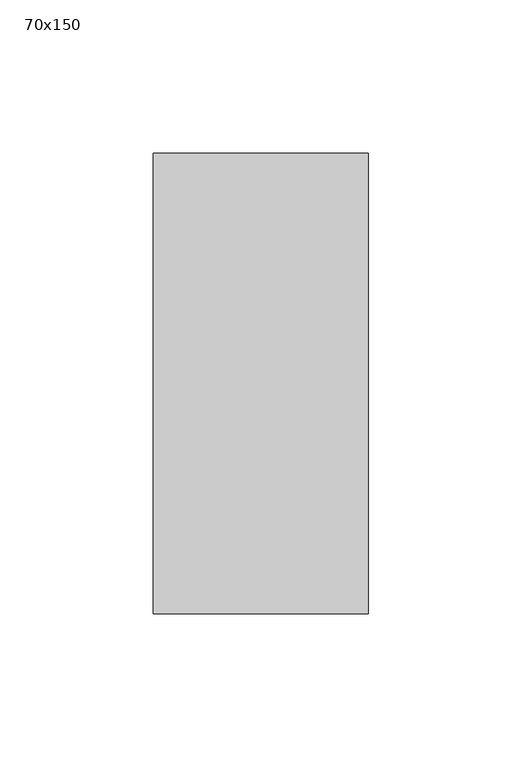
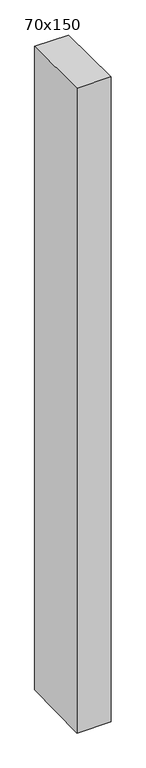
"""IFC4 building model written with IfcOpenShell, lengths in millimetres: member geometry, 長方形のマリオン : 70x150."""

import ifcopenshell
import ifcopenshell.guid

model = None  # the IFC model being written
_history = None  # IfcOwnerHistory: only IFC2X3 demands one
_inside = {}  # id of a spatial element -> (the spatial element, [elements in it])
_under = {}  # id of a project, library or spatial element -> (it, [spatial elements below it])
_declared = {}  # id of a project -> (the project, [libraries it declares])
_typed = {}  # id of a type object -> (the type object, [elements of that type])
_made_of = {}  # id of a material, layer set ... -> (it, [elements and type objects made of it])


def new_model(schema):
    """Start an empty IFC model of exactly this schema.

    Asked for "IFC4X3", IfcOpenShell would pick the latest addendum, in which some entities
    have other attributes; the version numbers below select the first issue.
    IFC2X3 requires an IfcOwnerHistory on every rooted entity: one is made here for all.
    """
    global model, _history
    if schema == "IFC4X3":
        model = ifcopenshell.file(schema_version=(4, 3, 0, 0))
    else:
        model = ifcopenshell.file(schema=schema)
    _inside.clear()
    _under.clear()
    _declared.clear()
    _typed.clear()
    _made_of.clear()
    _history = None
    if model.schema == "IFC2X3":
        org = make("IfcOrganization", Name="unknown")
        user = make(
            "IfcPersonAndOrganization",
            ThePerson=make("IfcPerson", FamilyName="unknown"),
            TheOrganization=org,
        )
        app = make(
            "IfcApplication",
            ApplicationDeveloper=org,
            Version="unknown",
            ApplicationFullName="unknown",
            ApplicationIdentifier="unknown",
        )
        _history = make(
            "IfcOwnerHistory",
            OwningUser=user,
            OwningApplication=app,
            ChangeAction="ADDED",
            CreationDate=0,
        )
    return model


def make(cls, **values):
    """One entity of the class cls with the attributes given. An attribute that is None is left unset."""
    return model.create_entity(
        cls, **{name: value for name, value in values.items() if value is not None}
    )


def rooted(cls, **values):
    """An entity with a GlobalId (a new one), such as an element, a storey or a relation."""
    return make(cls, GlobalId=ifcopenshell.guid.new(), OwnerHistory=_history, **values)


def si_unit(unit_type, name, prefix=None):
    """IfcSIUnit, for example si_unit("LENGTHUNIT", "METRE", prefix="MILLI")."""
    return make("IfcSIUnit", UnitType=unit_type, Prefix=prefix, Name=name)


def assignment(units):
    """IfcUnitAssignment: the units of a project."""
    return None if units is None else make("IfcUnitAssignment", Units=units)


def point(xyz):
    """IfcCartesianPoint."""
    return None if xyz is None else make("IfcCartesianPoint", Coordinates=xyz)


def direction(xyz):
    """IfcDirection."""
    return None if xyz is None else make("IfcDirection", DirectionRatios=xyz)


def frame(location, z_axis=None, x_axis=None):
    """IfcAxis2Placement3D, a coordinate frame: its origin and axes. An axis left out is left unset."""
    return make(
        "IfcAxis2Placement3D",
        Location=point(location),
        Axis=direction(z_axis),
        RefDirection=direction(x_axis),
    )


def origin():
    """The frame at (0, 0, 0) with its axes left unset."""
    return frame((0.0, 0.0, 0.0))


def place(relative_to, where):
    """IfcLocalPlacement: puts the frame where relative to a parent placement (None: the world)."""
    return make(
        "IfcLocalPlacement", PlacementRelTo=relative_to, RelativePlacement=where
    )


def context(
    kind, dimensions, precision=None, world=None, true_north=None, identifier=None
):
    """IfcGeometricRepresentationContext, for example the 3D "Model" context."""
    return make(
        "IfcGeometricRepresentationContext",
        ContextIdentifier=identifier,
        ContextType=kind,
        CoordinateSpaceDimension=dimensions,
        Precision=precision,
        WorldCoordinateSystem=world,
        TrueNorth=true_north,
    )


def project(units=None, contexts=None):
    """IfcProject with its units and contexts."""
    return rooted(
        "IfcProject",
        Name="project",
        RepresentationContexts=contexts,
        UnitsInContext=assignment(units),
    )


def spatial(cls, under=None, at=None, **own):
    """A site, building, storey or space (cls), placed at a placement, below another one or the project."""
    s = rooted(cls, ObjectPlacement=at, **own)
    if under is not None:
        _under.setdefault(under.id(), (under, []))[1].append(s)
    return s


def polyline(points):
    """IfcPolyline through the points."""
    return make("IfcPolyline", Points=[point(p) for p in points])


def outline(outer, holes=None, kind="AREA"):
    """IfcArbitraryClosedProfileDef: a profile drawn as a closed curve; with holes, ...WithVoids."""
    if holes is None:
        return make("IfcArbitraryClosedProfileDef", ProfileType=kind, OuterCurve=outer)
    return make(
        "IfcArbitraryProfileDefWithVoids",
        ProfileType=kind,
        OuterCurve=outer,
        InnerCurves=holes,
    )


def extrude(swept, where, along, depth):
    """IfcExtrudedAreaSolid: the profile swept, set in the frame where, extruded along a direction by depth."""
    return make(
        "IfcExtrudedAreaSolid",
        SweptArea=swept,
        Position=where,
        ExtrudedDirection=direction(along),
        Depth=depth,
    )


def shape(context_of_items, identifier, shape_type, items):
    """IfcShapeRepresentation: the items that make up one representation, for example the "Body"."""
    return make(
        "IfcShapeRepresentation",
        ContextOfItems=context_of_items,
        RepresentationIdentifier=identifier,
        RepresentationType=shape_type,
        Items=items,
    )


def source(mapping_origin, context_of_items, identifier, shape_type, items):
    """IfcRepresentationMap: a shape defined once, which mapped items show again and again."""
    return make(
        "IfcRepresentationMap",
        MappingOrigin=mapping_origin,
        MappedRepresentation=shape(context_of_items, identifier, shape_type, items),
    )


def transform(
    local_origin,
    x_axis=None,
    y_axis=None,
    z_axis=None,
    scale=None,
    scale2=None,
    scale3=None,
    uniform=True,
):
    """IfcCartesianTransformationOperator3D, or its non-uniform kind. x_axis, y_axis, z_axis: its Axis1, 2, 3."""
    if uniform:
        return make(
            "IfcCartesianTransformationOperator3D",
            Axis1=direction(x_axis),
            Axis2=direction(y_axis),
            LocalOrigin=point(local_origin),
            Scale=scale,
            Axis3=direction(z_axis),
        )
    return make(
        "IfcCartesianTransformationOperator3DnonUniform",
        Axis1=direction(x_axis),
        Axis2=direction(y_axis),
        LocalOrigin=point(local_origin),
        Scale=scale,
        Axis3=direction(z_axis),
        Scale2=scale2,
        Scale3=scale3,
    )


def mapped(mapping_source, mapping_target):
    """IfcMappedItem: shows the shape of a source again, moved by a transform."""
    return make(
        "IfcMappedItem", MappingSource=mapping_source, MappingTarget=mapping_target
    )


def made_of(thing, what):
    """Note that an element or type object is made of a material, layer set ...; save() writes the relation."""
    if what is not None:
        _made_of.setdefault(what.id(), (what, []))[1].append(thing)
    return thing


def element(
    cls,
    number,
    at=None,
    inside=None,
    cuts=None,
    type_object=None,
    material=None,
    context=None,
    identifier="Body",
    shape_type=None,
    held_by="IfcProductDefinitionShape",
    body=None,
    shapes=None,
    **own,
):
    """One element of the class cls, such as IfcWall. Its Tag is "e" and its number.

    at: its placement. inside: the storey or other place that contains it. cuts: it is an
    opening in that element (IfcRelVoidsElement). A single representation is given by context,
    identifier, shape_type and body (its items); several are given by shapes. held_by: the class
    of the entity that holds the representations. save() writes the other relations.
    """
    e = rooted(cls, Tag="e%d" % number, ObjectPlacement=at, **own)
    if body is not None:
        shapes = [shape(context, identifier, shape_type, body)]
    if shapes is not None:
        e.Representation = make(held_by, Representations=shapes)
    if inside is not None:
        _inside.setdefault(inside.id(), (inside, []))[1].append(e)
    if cuts is not None:
        rooted(
            "IfcRelVoidsElement", RelatingBuildingElement=cuts, RelatedOpeningElement=e
        )
    if type_object is not None:
        _typed.setdefault(type_object.id(), (type_object, []))[1].append(e)
    return made_of(e, material)


def aggregate(whole, parts):
    """IfcRelAggregates: a whole, such as a stair, and the parts it consists of."""
    return rooted("IfcRelAggregates", RelatingObject=whole, RelatedObjects=parts)


def save(model, path):
    """Write the relations noted so far, then the file.

    IfcRelAggregates (storeys below a building ...), IfcRelContainedInSpatialStructure (elements
    in a storey), IfcRelDefinesByType, IfcRelAssociatesMaterial and IfcRelDeclares: one each for
    every whole, place, type object, material and project.
    """
    for whole, parts in _under.values():
        aggregate(whole, parts)
    for where, things in _inside.values():
        rooted(
            "IfcRelContainedInSpatialStructure",
            RelatedElements=things,
            RelatingStructure=where,
        )
    for kind, things in _typed.values():
        rooted("IfcRelDefinesByType", RelatedObjects=things, RelatingType=kind)
    for what, things in _made_of.values():
        rooted("IfcRelAssociatesMaterial", RelatedObjects=things, RelatingMaterial=what)
    for by, libraries in _declared.values():
        rooted("IfcRelDeclares", RelatingContext=by, RelatedDefinitions=libraries)
    model.write(path)


def member_70x150_4fc0aec4(model_context):
    return source(origin(), model_context, "Body", "SweptSolid", [
        extrude(outline(polyline([(-75.0, 0.3082573), (75.0, -0.3082573), (75.0, -1398.7965248), (-75.0, -1401.5521364), (-75.0, 0.3082573)])), frame((-70.0, 0.0, 0.0), z_axis=(1.0, 0.0, 0.0), x_axis=(0.0, 1.0, 0.0)), (0.0, 0.0, 1.0), 70.0),
    ])


if __name__ == "__main__":
    model = new_model("IFC4")
    model_context = context("Model", 3, world=origin())
    ifc_project = project(units=[si_unit("LENGTHUNIT", "METRE", prefix="MILLI")], contexts=[model_context])
    site = spatial("IfcSite", under=ifc_project)
    building = spatial("IfcBuilding", under=site)
    placement = place(None, origin())
    member_70x150_shape = member_70x150_4fc0aec4(model_context)
    element("IfcMember", 1, ObjectType="長方形のマリオン : 70x150", at=placement, inside=building, context=model_context, shape_type="MappedRepresentation", body=[
        mapped(member_70x150_shape, transform((0.0, 0.0, 0.0), x_axis=(1.0, 0.0, 0.0), y_axis=(0.0, 1.0, 0.0), z_axis=(0.0, 0.0, 1.0))),
    ])
    save(model, "model.ifc")
